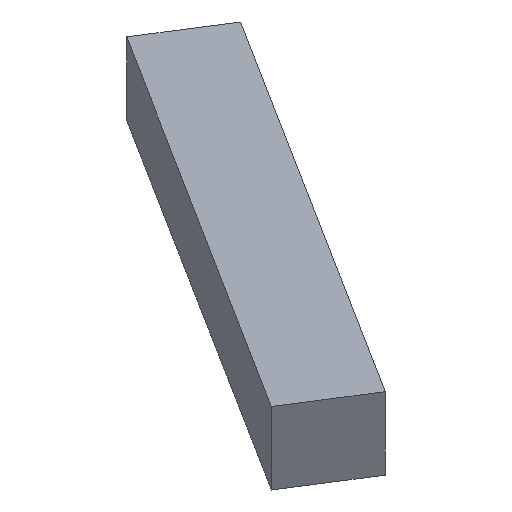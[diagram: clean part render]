
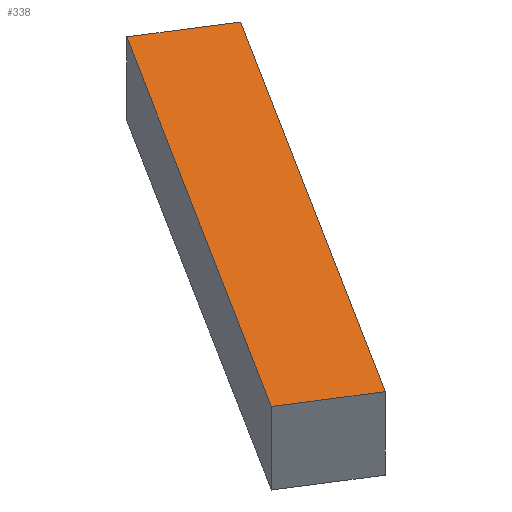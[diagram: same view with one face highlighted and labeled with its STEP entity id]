
A CAD part, isometric view. The second image highlights one B-rep face of the part: STEP entity #338.
In plain terms, the highlighted planar face has unit normal (0, 0, 1).
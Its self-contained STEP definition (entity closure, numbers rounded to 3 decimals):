
#24 = VERTEX_POINT('',#25);
#25 = CARTESIAN_POINT('',(-193.382,-179.777,52.));
#32 = PLANE('',#33);
#33 = AXIS2_PLACEMENT_3D('',#34,#35,#36);
#34 = CARTESIAN_POINT('',(-193.382,-179.777,45.));
#35 = DIRECTION('',(-0.845,0.534,0.));
#36 = DIRECTION('',(0.534,0.845,0.));
#44 = PLANE('',#45);
#45 = AXIS2_PLACEMENT_3D('',#46,#47,#48);
#46 = CARTESIAN_POINT('',(-186.618,-184.049,45.));
#47 = DIRECTION('',(-0.534,-0.845,0.));
#48 = DIRECTION('',(-0.845,0.534,0.));
#56 = EDGE_CURVE('',#24,#57,#59,.T.);
#57 = VERTEX_POINT('',#58);
#58 = CARTESIAN_POINT('',(-169.382,-141.777,52.));
#59 = SURFACE_CURVE('',#60,(#64,#71),.PCURVE_S1.);
#60 = LINE('',#61,#62);
#61 = CARTESIAN_POINT('',(-193.382,-179.777,52.));
#62 = VECTOR('',#63,1.);
#63 = DIRECTION('',(0.534,0.845,0.));
#64 = PCURVE('',#32,#65);
#65 = DEFINITIONAL_REPRESENTATION('',(#66),#70);
#66 = LINE('',#67,#68);
#67 = CARTESIAN_POINT('',(0.,-7.));
#68 = VECTOR('',#69,1.);
#69 = DIRECTION('',(1.,0.));
#70 = ( GEOMETRIC_REPRESENTATION_CONTEXT(2) 
PARAMETRIC_REPRESENTATION_CONTEXT() REPRESENTATION_CONTEXT('2D SPACE',''
  ) );
#71 = PCURVE('',#72,#77);
#72 = PLANE('',#73);
#73 = AXIS2_PLACEMENT_3D('',#74,#75,#76);
#74 = CARTESIAN_POINT('',(-178.,-162.913,52.));
#75 = DIRECTION('',(-0.,-0.,-1.));
#76 = DIRECTION('',(-1.,0.,0.));
#77 = DEFINITIONAL_REPRESENTATION('',(#78),#82);
#78 = LINE('',#79,#80);
#79 = CARTESIAN_POINT('',(15.382,-16.864));
#80 = VECTOR('',#81,1.);
#81 = DIRECTION('',(-0.534,0.845));
#82 = ( GEOMETRIC_REPRESENTATION_CONTEXT(2) 
PARAMETRIC_REPRESENTATION_CONTEXT() REPRESENTATION_CONTEXT('2D SPACE',''
  ) );
#100 = PLANE('',#101);
#101 = AXIS2_PLACEMENT_3D('',#102,#103,#104);
#102 = CARTESIAN_POINT('',(-169.382,-141.777,45.));
#103 = DIRECTION('',(0.534,0.845,-0.));
#104 = DIRECTION('',(0.845,-0.534,0.));
#142 = EDGE_CURVE('',#57,#143,#145,.T.);
#143 = VERTEX_POINT('',#144);
#144 = CARTESIAN_POINT('',(-162.618,-146.049,52.));
#145 = SURFACE_CURVE('',#146,(#150,#157),.PCURVE_S1.);
#146 = LINE('',#147,#148);
#147 = CARTESIAN_POINT('',(-169.382,-141.777,52.));
#148 = VECTOR('',#149,1.);
#149 = DIRECTION('',(0.845,-0.534,0.));
#150 = PCURVE('',#100,#151);
#151 = DEFINITIONAL_REPRESENTATION('',(#152),#156);
#152 = LINE('',#153,#154);
#153 = CARTESIAN_POINT('',(0.,-7.));
#154 = VECTOR('',#155,1.);
#155 = DIRECTION('',(1.,0.));
#156 = ( GEOMETRIC_REPRESENTATION_CONTEXT(2) 
PARAMETRIC_REPRESENTATION_CONTEXT() REPRESENTATION_CONTEXT('2D SPACE',''
  ) );
#157 = PCURVE('',#72,#158);
#158 = DEFINITIONAL_REPRESENTATION('',(#159),#163);
#159 = LINE('',#160,#161);
#160 = CARTESIAN_POINT('',(-8.618,21.136));
#161 = VECTOR('',#162,1.);
#162 = DIRECTION('',(-0.845,-0.534));
#163 = ( GEOMETRIC_REPRESENTATION_CONTEXT(2) 
PARAMETRIC_REPRESENTATION_CONTEXT() REPRESENTATION_CONTEXT('2D SPACE',''
  ) );
#181 = PLANE('',#182);
#182 = AXIS2_PLACEMENT_3D('',#183,#184,#185);
#183 = CARTESIAN_POINT('',(-162.618,-146.049,45.));
#184 = DIRECTION('',(0.845,-0.534,0.));
#185 = DIRECTION('',(-0.534,-0.845,0.));
#218 = EDGE_CURVE('',#143,#219,#221,.T.);
#219 = VERTEX_POINT('',#220);
#220 = CARTESIAN_POINT('',(-186.618,-184.049,52.));
#221 = SURFACE_CURVE('',#222,(#226,#233),.PCURVE_S1.);
#222 = LINE('',#223,#224);
#223 = CARTESIAN_POINT('',(-162.618,-146.049,52.));
#224 = VECTOR('',#225,1.);
#225 = DIRECTION('',(-0.534,-0.845,0.));
#226 = PCURVE('',#181,#227);
#227 = DEFINITIONAL_REPRESENTATION('',(#228),#232);
#228 = LINE('',#229,#230);
#229 = CARTESIAN_POINT('',(0.,-7.));
#230 = VECTOR('',#231,1.);
#231 = DIRECTION('',(1.,0.));
#232 = ( GEOMETRIC_REPRESENTATION_CONTEXT(2) 
PARAMETRIC_REPRESENTATION_CONTEXT() REPRESENTATION_CONTEXT('2D SPACE',''
  ) );
#233 = PCURVE('',#72,#234);
#234 = DEFINITIONAL_REPRESENTATION('',(#235),#239);
#235 = LINE('',#236,#237);
#236 = CARTESIAN_POINT('',(-15.382,16.864));
#237 = VECTOR('',#238,1.);
#238 = DIRECTION('',(0.534,-0.845));
#239 = ( GEOMETRIC_REPRESENTATION_CONTEXT(2) 
PARAMETRIC_REPRESENTATION_CONTEXT() REPRESENTATION_CONTEXT('2D SPACE',''
  ) );
#289 = EDGE_CURVE('',#219,#24,#290,.T.);
#290 = SURFACE_CURVE('',#291,(#295,#302),.PCURVE_S1.);
#291 = LINE('',#292,#293);
#292 = CARTESIAN_POINT('',(-186.618,-184.049,52.));
#293 = VECTOR('',#294,1.);
#294 = DIRECTION('',(-0.845,0.534,0.));
#295 = PCURVE('',#44,#296);
#296 = DEFINITIONAL_REPRESENTATION('',(#297),#301);
#297 = LINE('',#298,#299);
#298 = CARTESIAN_POINT('',(0.,-7.));
#299 = VECTOR('',#300,1.);
#300 = DIRECTION('',(1.,0.));
#301 = ( GEOMETRIC_REPRESENTATION_CONTEXT(2) 
PARAMETRIC_REPRESENTATION_CONTEXT() REPRESENTATION_CONTEXT('2D SPACE',''
  ) );
#302 = PCURVE('',#72,#303);
#303 = DEFINITIONAL_REPRESENTATION('',(#304),#308);
#304 = LINE('',#305,#306);
#305 = CARTESIAN_POINT('',(8.618,-21.136));
#306 = VECTOR('',#307,1.);
#307 = DIRECTION('',(0.845,0.534));
#308 = ( GEOMETRIC_REPRESENTATION_CONTEXT(2) 
PARAMETRIC_REPRESENTATION_CONTEXT() REPRESENTATION_CONTEXT('2D SPACE',''
  ) );
#338 = ADVANCED_FACE('',(#339),#72,.F.);
#339 = FACE_BOUND('',#340,.F.);
#340 = EDGE_LOOP('',(#341,#342,#343,#344));
#341 = ORIENTED_EDGE('',*,*,#56,.T.);
#342 = ORIENTED_EDGE('',*,*,#142,.T.);
#343 = ORIENTED_EDGE('',*,*,#218,.T.);
#344 = ORIENTED_EDGE('',*,*,#289,.T.);
